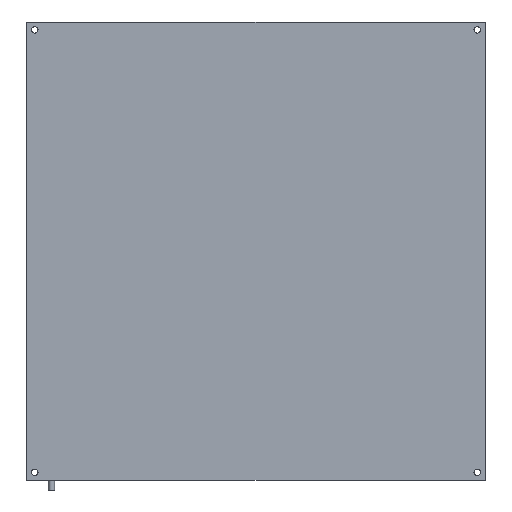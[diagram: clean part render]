
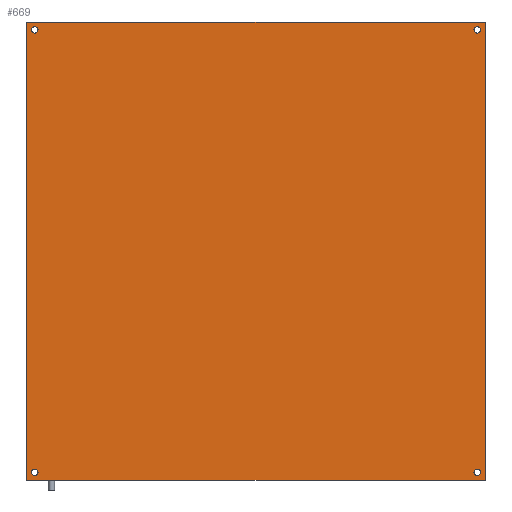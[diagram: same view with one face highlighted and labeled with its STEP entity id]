
A CAD part, front view. The second image highlights one B-rep face of the part: STEP entity #669.
In plain terms, the highlighted planar face has unit normal (0, -1, 0).
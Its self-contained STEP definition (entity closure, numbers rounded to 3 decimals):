
#18=FACE_BOUND('',#150,.T.);
#19=FACE_BOUND('',#151,.T.);
#20=FACE_BOUND('',#152,.T.);
#21=FACE_BOUND('',#153,.T.);
#50=CIRCLE('',#745,1.65);
#51=CIRCLE('',#746,1.65);
#52=CIRCLE('',#747,1.65);
#53=CIRCLE('',#748,1.65);
#54=CIRCLE('',#749,1.65);
#55=CIRCLE('',#750,1.65);
#56=CIRCLE('',#751,1.65);
#57=CIRCLE('',#752,1.65);
#108=FACE_OUTER_BOUND('',#149,.T.);
#149=EDGE_LOOP('',(#485,#486,#487,#488));
#150=EDGE_LOOP('',(#489,#490));
#151=EDGE_LOOP('',(#491,#492));
#152=EDGE_LOOP('',(#493,#494));
#153=EDGE_LOOP('',(#495,#496));
#202=LINE('',#1095,#247);
#203=LINE('',#1097,#248);
#204=LINE('',#1099,#249);
#205=LINE('',#1100,#250);
#247=VECTOR('',#877,1000.);
#248=VECTOR('',#878,1000.);
#249=VECTOR('',#879,1000.);
#250=VECTOR('',#880,1000.);
#305=VERTEX_POINT('',#1093);
#306=VERTEX_POINT('',#1094);
#307=VERTEX_POINT('',#1096);
#308=VERTEX_POINT('',#1098);
#309=VERTEX_POINT('',#1101);
#310=VERTEX_POINT('',#1102);
#311=VERTEX_POINT('',#1105);
#312=VERTEX_POINT('',#1106);
#313=VERTEX_POINT('',#1109);
#314=VERTEX_POINT('',#1110);
#315=VERTEX_POINT('',#1113);
#316=VERTEX_POINT('',#1114);
#380=EDGE_CURVE('',#305,#306,#202,.T.);
#381=EDGE_CURVE('',#306,#307,#203,.T.);
#382=EDGE_CURVE('',#307,#308,#204,.T.);
#383=EDGE_CURVE('',#308,#305,#205,.T.);
#384=EDGE_CURVE('',#309,#310,#50,.T.);
#385=EDGE_CURVE('',#310,#309,#51,.T.);
#386=EDGE_CURVE('',#311,#312,#52,.T.);
#387=EDGE_CURVE('',#312,#311,#53,.T.);
#388=EDGE_CURVE('',#313,#314,#54,.T.);
#389=EDGE_CURVE('',#314,#313,#55,.T.);
#390=EDGE_CURVE('',#315,#316,#56,.T.);
#391=EDGE_CURVE('',#316,#315,#57,.T.);
#485=ORIENTED_EDGE('',*,*,#380,.T.);
#486=ORIENTED_EDGE('',*,*,#381,.T.);
#487=ORIENTED_EDGE('',*,*,#382,.T.);
#488=ORIENTED_EDGE('',*,*,#383,.T.);
#489=ORIENTED_EDGE('',*,*,#384,.F.);
#490=ORIENTED_EDGE('',*,*,#385,.F.);
#491=ORIENTED_EDGE('',*,*,#386,.F.);
#492=ORIENTED_EDGE('',*,*,#387,.F.);
#493=ORIENTED_EDGE('',*,*,#388,.F.);
#494=ORIENTED_EDGE('',*,*,#389,.F.);
#495=ORIENTED_EDGE('',*,*,#390,.F.);
#496=ORIENTED_EDGE('',*,*,#391,.F.);
#644=PLANE('',#744);
#669=ADVANCED_FACE('',(#108,#18,#19,#20,#21),#644,.T.);
#744=AXIS2_PLACEMENT_3D('',#1092,#875,#876);
#745=AXIS2_PLACEMENT_3D('',#1103,#881,#882);
#746=AXIS2_PLACEMENT_3D('',#1104,#883,#884);
#747=AXIS2_PLACEMENT_3D('',#1107,#885,#886);
#748=AXIS2_PLACEMENT_3D('',#1108,#887,#888);
#749=AXIS2_PLACEMENT_3D('',#1111,#889,#890);
#750=AXIS2_PLACEMENT_3D('',#1112,#891,#892);
#751=AXIS2_PLACEMENT_3D('',#1115,#893,#894);
#752=AXIS2_PLACEMENT_3D('',#1116,#895,#896);
#875=DIRECTION('center_axis',(0.,-1.,0.));
#876=DIRECTION('ref_axis',(0.,0.,-1.));
#877=DIRECTION('',(0.,0.,1.));
#878=DIRECTION('',(-1.,0.,0.));
#879=DIRECTION('',(0.,0.,-1.));
#880=DIRECTION('',(1.,0.,0.));
#881=DIRECTION('center_axis',(0.,-1.,0.));
#882=DIRECTION('ref_axis',(0.,0.,-1.));
#883=DIRECTION('center_axis',(0.,-1.,0.));
#884=DIRECTION('ref_axis',(0.,0.,-1.));
#885=DIRECTION('center_axis',(0.,-1.,0.));
#886=DIRECTION('ref_axis',(0.,0.,-1.));
#887=DIRECTION('center_axis',(0.,-1.,0.));
#888=DIRECTION('ref_axis',(0.,0.,-1.));
#889=DIRECTION('center_axis',(0.,-1.,0.));
#890=DIRECTION('ref_axis',(0.,0.,-1.));
#891=DIRECTION('center_axis',(0.,-1.,0.));
#892=DIRECTION('ref_axis',(0.,0.,-1.));
#893=DIRECTION('center_axis',(0.,-1.,0.));
#894=DIRECTION('ref_axis',(0.,0.,-1.));
#895=DIRECTION('center_axis',(0.,-1.,0.));
#896=DIRECTION('ref_axis',(0.,0.,-1.));
#1092=CARTESIAN_POINT('Origin',(0.,0.,
-233.));
#1093=CARTESIAN_POINT('',(233.,0.,-233.));
#1094=CARTESIAN_POINT('',(233.,0.,0.));
#1095=CARTESIAN_POINT('',(233.,0.,0.));
#1096=CARTESIAN_POINT('',(0.,0.,0.));
#1097=CARTESIAN_POINT('',(0.,0.,0.));
#1098=CARTESIAN_POINT('',(0.,0.,-233.));
#1099=CARTESIAN_POINT('',(0.,0.,0.));
#1100=CARTESIAN_POINT('',(0.,0.,-233.));
#1101=CARTESIAN_POINT('',(4.,0.,-5.65));
#1102=CARTESIAN_POINT('',(4.,0.,-2.35));
#1103=CARTESIAN_POINT('Origin',(4.,0.,
-4.));
#1104=CARTESIAN_POINT('Origin',(4.,0.,
-4.));
#1105=CARTESIAN_POINT('',(229.,0.,-5.65));
#1106=CARTESIAN_POINT('',(229.,0.,-2.35));
#1107=CARTESIAN_POINT('Origin',(229.,0.,
-4.));
#1108=CARTESIAN_POINT('Origin',(229.,0.,
-4.));
#1109=CARTESIAN_POINT('',(229.,0.,-230.65));
#1110=CARTESIAN_POINT('',(229.,0.,-227.35));
#1111=CARTESIAN_POINT('Origin',(229.,0.,
-229.));
#1112=CARTESIAN_POINT('Origin',(229.,0.,
-229.));
#1113=CARTESIAN_POINT('',(4.,0.,-230.65));
#1114=CARTESIAN_POINT('',(4.,0.,-227.35));
#1115=CARTESIAN_POINT('Origin',(4.,0.,
-229.));
#1116=CARTESIAN_POINT('Origin',(4.,0.,
-229.));
